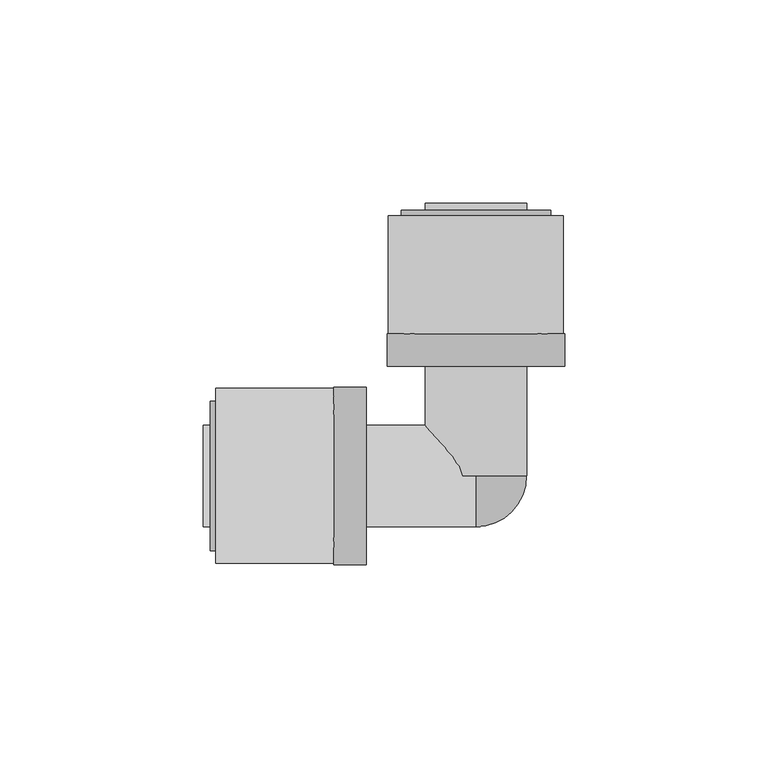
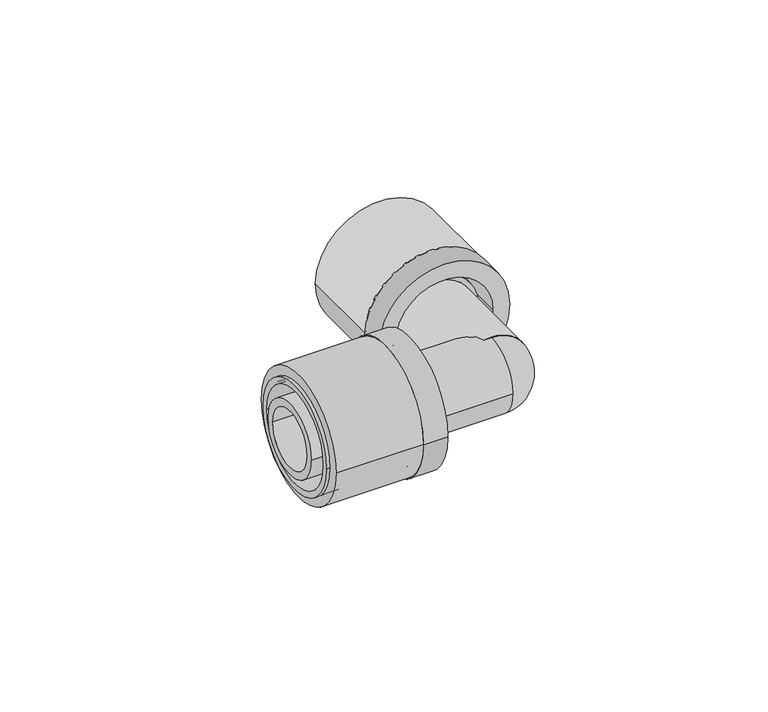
"""IFC4 building model written with IfcOpenShell, lengths in millimetres: pipe fitting geometry, FASTLOC_Corner LX : FSL C LX CZ."""

from ifc_helpers import new_model, si_unit, point, frame, origin, origin_2d, place, context, project, spatial, polyline, circle_curve, ellipse_curve, trimmed, segment, composite_curve, outline, extrude, source, transform, mapped, element, save
from ifc_brep_helpers import plane_surface, cylinder_surface, revolved_surface, advanced_brep


def pipe_fitting_edf19c19(model_context):
    return source(origin(), model_context, "Body", "SolidModel", [
        extrude(outline(composite_curve([segment(trimmed(circle_curve(origin_2d(), 21.5), [point((0.0, 21.5))], [point((0.0, -21.5))], False, "CARTESIAN"), True, "CONTINUOUS"), segment(trimmed(circle_curve(origin_2d(), 21.5), [point((0.0, -21.5))], [point((0.0, 21.5))], False, "CARTESIAN"), True, "CONTINUOUS")], self_intersect=False), holes=[composite_curve([segment(trimmed(circle_curve(origin_2d(), 16.85), [point((0.0, 16.85))], [point((0.0, -16.85))], True, "CARTESIAN"), True, "CONTINUOUS"), segment(trimmed(circle_curve(origin_2d(), 16.85), [point((0.0, -16.85))], [point((0.0, 16.85))], True, "CARTESIAN"), True, "CONTINUOUS")], self_intersect=False)]), frame((0.0, 35.0, 0.0), z_axis=(0.0, 1.0, 0.0), x_axis=(0.0, 0.0, 1.0)), (0.0, 0.0, 1.0), 29.0),
        advanced_brep(
        [(-21.8, 35.0, 0.0), (21.8, 35.0, 0.0), (21.8, 27.0, 0.0), (-21.8, 27.0, 0.0), (-18.35, 65.3, 0.0), (18.35, 65.3, 0.0), (18.35, 35.0, 0.0), (-18.35, 35.0, 0.0), (-16.2, 27.0, 0.0), (16.2, 27.0, 0.0), (16.2, 65.3, 0.0), (-16.2, 65.3, 0.0)],
        [
            (0, 1, circle_curve(frame((0.0, 35.0, 0.0), z_axis=(0.0, -1.0, 0.0), x_axis=(1.0, 0.0, 0.0)), 21.8)),
            (1, 2),
            (2, 3, circle_curve(frame((0.0, 27.0, 0.0), z_axis=(0.0, 1.0, 0.0), x_axis=(1.0, 0.0, 0.0)), 21.8)),
            (3, 0),
            (4, 5, circle_curve(frame((0.0, 65.3, 0.0), z_axis=(0.0, -1.0, 0.0), x_axis=(1.0, 0.0, 0.0)), 18.35)),
            (5, 6),
            (6, 7, circle_curve(frame((0.0, 35.0, 0.0), z_axis=(0.0, 1.0, 0.0), x_axis=(1.0, 0.0, 0.0)), 18.35)),
            (7, 4),
            (8, 9, circle_curve(frame((0.0, 27.0, 0.0), z_axis=(0.0, -1.0, 0.0), x_axis=(1.0, 0.0, 0.0)), 16.2)),
            (9, 10),
            (10, 11, circle_curve(frame((0.0, 65.3, 0.0), z_axis=(0.0, 1.0, 0.0), x_axis=(1.0, 0.0, 0.0)), 16.2)),
            (11, 8),
            (1, 0, circle_curve(frame((0.0, 35.0, 0.0), z_axis=(0.0, -1.0, 0.0), x_axis=(-1.0, 0.0, 0.0)), 21.8)),
            (3, 2, circle_curve(frame((0.0, 27.0, 0.0), z_axis=(0.0, 1.0, 0.0), x_axis=(-1.0, 0.0, 0.0)), 21.8)),
            (6, 7, circle_curve(frame((0.0, 35.0, 0.0), z_axis=(0.0, -1.0, 0.0), x_axis=(-1.0, 0.0, 0.0)), 18.35)),
            (5, 4, circle_curve(frame((0.0, 65.3, 0.0), z_axis=(0.0, -1.0, 0.0), x_axis=(-1.0, 0.0, 0.0)), 18.35)),
            (10, 11, circle_curve(frame((0.0, 65.3, 0.0), z_axis=(0.0, -1.0, 0.0), x_axis=(-1.0, 0.0, 0.0)), 16.2)),
            (9, 8, circle_curve(frame((0.0, 27.0, 0.0), z_axis=(0.0, -1.0, 0.0), x_axis=(-1.0, 0.0, 0.0)), 16.2)),
        ],
        [
            cylinder_surface(frame((0.0, 27.0, 0.0), z_axis=(0.0, 1.0, 0.0), x_axis=(1.0, 0.0, 0.0)), 21.8),
            cylinder_surface(frame((0.0, 27.0, 0.0), z_axis=(0.0, 1.0, 0.0), x_axis=(1.0, 0.0, 0.0)), 18.35),
            revolved_surface(polyline([(16.2, 65.3, 0.0), (16.2, 27.0, 0.0)]), (0.0, 27.0, 0.0), (0.0, 1.0, 0.0)),
            cylinder_surface(frame((0.0, 27.0, 0.0), z_axis=(0.0, 1.0, 0.0), x_axis=(-1.0, 0.0, 0.0)), 21.8),
            plane_surface(frame((0.0, 35.0, 0.0), z_axis=(0.0, 1.0, 0.0), x_axis=(-1.0, 0.0, 0.0))),
            cylinder_surface(frame((0.0, 27.0, 0.0), z_axis=(0.0, 1.0, 0.0), x_axis=(-1.0, 0.0, 0.0)), 18.35),
            plane_surface(frame((0.0, 65.3, 0.0), z_axis=(0.0, 1.0, 0.0), x_axis=(-1.0, 0.0, 0.0))),
            revolved_surface(polyline([(-16.2, 65.3, 0.0), (-16.2, 27.0, 0.0)]), (0.0, 27.0, 0.0), (0.0, 1.0, 0.0)),
            plane_surface(frame((0.0, 27.0, 0.0), z_axis=(0.0, -1.0, 0.0), x_axis=(-1.0, 0.0, 0.0))),
        ],
        [
            (0, [[1, 2, 3, 4]]),
            (1, [[5, 6, 7, 8]]),
            (2, [[9, 10, 11, 12]]),
            (3, [[13, -4, 14, -2]]),
            (4, [[-13, -1], [15, -7]]),
            (5, [[16, -8, -15, -6]]),
            (6, [[-16, -5], [17, -11]]),
            (7, [[18, -12, -17, -10]]),
            (8, [[-14, -3], [-18, -9]]),
        ],
    ),
        extrude(outline(composite_curve([segment(trimmed(circle_curve(origin_2d(), 21.5), [point((21.5, 0.0))], [point((-21.5, 0.0))], False, "CARTESIAN"), True, "CONTINUOUS"), segment(trimmed(circle_curve(origin_2d(), 21.5), [point((-21.5, 0.0))], [point((21.5, 0.0))], False, "CARTESIAN"), True, "CONTINUOUS")], self_intersect=False), holes=[composite_curve([segment(trimmed(circle_curve(origin_2d(), 16.85), [point((16.85, 0.0))], [point((-16.85, 0.0))], True, "CARTESIAN"), True, "CONTINUOUS"), segment(trimmed(circle_curve(origin_2d(), 16.85), [point((-16.85, 0.0))], [point((16.85, 0.0))], True, "CARTESIAN"), True, "CONTINUOUS")], self_intersect=False)]), frame((-64.0, 0.0, 0.0), z_axis=(1.0, 0.0, 0.0), x_axis=(0.0, 1.0, 0.0)), (0.0, 0.0, 1.0), 29.0),
        advanced_brep(
        [(-35.0, -21.8, 0.0), (-35.0, 21.8, 0.0), (-27.0, 21.8, 0.0), (-27.0, -21.8, 0.0), (-65.3, -18.35, 0.0), (-65.3, 18.35, 0.0), (-35.0, 18.35, 0.0), (-35.0, -18.35, 0.0), (-27.0, -16.2, 0.0), (-27.0, 16.2, 0.0), (-65.3, 16.2, 0.0), (-65.3, -16.2, 0.0)],
        [
            (0, 1, circle_curve(frame((-35.0, 0.0, 0.0), z_axis=(1.0, 0.0, 0.0), x_axis=(0.0, 1.0, 0.0)), 21.8)),
            (1, 2),
            (2, 3, circle_curve(frame((-27.0, 0.0, 0.0), z_axis=(-1.0, 0.0, 0.0), x_axis=(0.0, 1.0, 0.0)), 21.8)),
            (3, 0),
            (4, 5, circle_curve(frame((-65.3, 0.0, 0.0), z_axis=(1.0, 0.0, 0.0), x_axis=(0.0, 1.0, 0.0)), 18.35)),
            (5, 6),
            (6, 7, circle_curve(frame((-35.0, 0.0, 0.0), z_axis=(-1.0, 0.0, 0.0), x_axis=(0.0, 1.0, 0.0)), 18.35)),
            (7, 4),
            (8, 9, circle_curve(frame((-27.0, 0.0, 0.0), z_axis=(1.0, 0.0, 0.0), x_axis=(0.0, 1.0, 0.0)), 16.2)),
            (9, 10),
            (10, 11, circle_curve(frame((-65.3, 0.0, 0.0), z_axis=(-1.0, 0.0, 0.0), x_axis=(0.0, 1.0, 0.0)), 16.2)),
            (11, 8),
            (1, 0, circle_curve(frame((-35.0, 0.0, 0.0), z_axis=(1.0, 0.0, 0.0), x_axis=(0.0, -1.0, 0.0)), 21.8)),
            (3, 2, circle_curve(frame((-27.0, 0.0, 0.0), z_axis=(-1.0, 0.0, 0.0), x_axis=(0.0, -1.0, 0.0)), 21.8)),
            (6, 7, circle_curve(frame((-35.0, 0.0, 0.0), z_axis=(1.0, 0.0, 0.0), x_axis=(0.0, -1.0, 0.0)), 18.35)),
            (5, 4, circle_curve(frame((-65.3, 0.0, 0.0), z_axis=(1.0, 0.0, 0.0), x_axis=(0.0, -1.0, 0.0)), 18.35)),
            (10, 11, circle_curve(frame((-65.3, 0.0, 0.0), z_axis=(1.0, 0.0, 0.0), x_axis=(0.0, -1.0, 0.0)), 16.2)),
            (9, 8, circle_curve(frame((-27.0, 0.0, 0.0), z_axis=(1.0, 0.0, 0.0), x_axis=(0.0, -1.0, 0.0)), 16.2)),
        ],
        [
            cylinder_surface(frame((-27.0, 0.0, 0.0), z_axis=(-1.0, 0.0, 0.0), x_axis=(0.0, 1.0, 0.0)), 21.8),
            cylinder_surface(frame((-27.0, 0.0, 0.0), z_axis=(-1.0, 0.0, 0.0), x_axis=(0.0, 1.0, 0.0)), 18.35),
            revolved_surface(polyline([(-65.3, 16.2, 0.0), (-27.0, 16.2, 0.0)]), (-27.0, 0.0, 0.0), (-1.0, 0.0, 0.0)),
            cylinder_surface(frame((-27.0, 0.0, 0.0), z_axis=(-1.0, 0.0, 0.0), x_axis=(0.0, -1.0, 0.0)), 21.8),
            plane_surface(frame((-35.0, 0.0, 0.0), z_axis=(-1.0, 0.0, 0.0), x_axis=(0.0, -1.0, 0.0))),
            cylinder_surface(frame((-27.0, 0.0, 0.0), z_axis=(-1.0, 0.0, 0.0), x_axis=(0.0, -1.0, 0.0)), 18.35),
            plane_surface(frame((-65.3, 0.0, 0.0), z_axis=(-1.0, 0.0, 0.0), x_axis=(0.0, -1.0, 0.0))),
            revolved_surface(polyline([(-65.3, -16.2, 0.0), (-27.0, -16.2, 0.0)]), (-27.0, 0.0, 0.0), (-1.0, 0.0, 0.0)),
            plane_surface(frame((-27.0, 0.0, 0.0), z_axis=(1.0, 0.0, 0.0), x_axis=(0.0, -1.0, 0.0))),
        ],
        [
            (0, [[1, 2, 3, 4]]),
            (1, [[5, 6, 7, 8]]),
            (2, [[9, 10, 11, 12]]),
            (3, [[13, -4, 14, -2]]),
            (4, [[-13, -1], [15, -7]]),
            (5, [[16, -8, -15, -6]]),
            (6, [[-16, -5], [17, -11]]),
            (7, [[18, -12, -17, -10]]),
            (8, [[-14, -3], [-18, -9]]),
        ],
    ),
        advanced_brep(
        [(9.85, 67.0, 0.0), (-9.85, 67.0, 0.0), (-9.85, 0.0, 0.0), (9.85, 0.0, 0.0), (12.5, 35.0, 0.0), (-12.5, 35.0, 0.0), (-12.5, 67.0, 0.0), (12.5, 67.0, 0.0), (14.1, 32.0, 0.0), (-14.1, 32.0, 0.0), (-14.1, 35.0, 0.0), (14.1, 35.0, 0.0), (12.5, 0.0, 0.0), (-12.5, 0.0, 0.0), (-12.5, 32.0, 0.0), (12.5, 32.0, 0.0)],
        [
            (0, 1, circle_curve(frame((0.0, 67.0, 0.0), z_axis=(0.0, 1.0, 0.0), x_axis=(-1.0, 0.0, 0.0)), 9.85)),
            (1, 2),
            (2, 3, circle_curve(frame((0.0, 0.0, 0.0), z_axis=(0.0, -1.0, 0.0), x_axis=(-1.0, 0.0, 0.0)), 9.85)),
            (3, 0),
            (4, 5, circle_curve(frame((0.0, 35.0, 0.0), z_axis=(0.0, 1.0, 0.0), x_axis=(-1.0, 0.0, 0.0)), 12.5)),
            (5, 6),
            (6, 7, circle_curve(frame((0.0, 67.0, 0.0), z_axis=(0.0, -1.0, 0.0), x_axis=(-1.0, 0.0, 0.0)), 12.5)),
            (7, 4),
            (8, 9, circle_curve(frame((0.0, 32.0, 0.0), z_axis=(0.0, 1.0, 0.0), x_axis=(-1.0, 0.0, 0.0)), 14.1)),
            (9, 10),
            (10, 11, circle_curve(frame((0.0, 35.0, 0.0), z_axis=(0.0, -1.0, 0.0), x_axis=(-1.0, 0.0, 0.0)), 14.1)),
            (11, 8),
            (12, 13, circle_curve(frame((0.0, 0.0, 0.0), z_axis=(0.0, 1.0, 0.0), x_axis=(-1.0, 0.0, 0.0)), 12.5)),
            (13, 14),
            (14, 15, circle_curve(frame((0.0, 32.0, 0.0), z_axis=(0.0, -1.0, 0.0), x_axis=(-1.0, 0.0, 0.0)), 12.5)),
            (15, 12),
            (1, 0, circle_curve(frame((0.0, 67.0, 0.0), z_axis=(0.0, 1.0, 0.0), x_axis=(1.0, 0.0, 0.0)), 9.85)),
            (3, 2, circle_curve(frame((0.0, 0.0, 0.0), z_axis=(0.0, -1.0, 0.0), x_axis=(1.0, 0.0, 0.0)), 9.85)),
            (6, 7, circle_curve(frame((0.0, 67.0, 0.0), z_axis=(0.0, 1.0, 0.0), x_axis=(1.0, 0.0, 0.0)), 12.5)),
            (5, 4, circle_curve(frame((0.0, 35.0, 0.0), z_axis=(0.0, 1.0, 0.0), x_axis=(1.0, 0.0, 0.0)), 12.5)),
            (10, 11, circle_curve(frame((0.0, 35.0, 0.0), z_axis=(0.0, 1.0, 0.0), x_axis=(1.0, 0.0, 0.0)), 14.1)),
            (9, 8, circle_curve(frame((0.0, 32.0, 0.0), z_axis=(0.0, 1.0, 0.0), x_axis=(1.0, 0.0, 0.0)), 14.1)),
            (14, 15, circle_curve(frame((0.0, 32.0, 0.0), z_axis=(0.0, 1.0, 0.0), x_axis=(1.0, 0.0, 0.0)), 12.5)),
            (13, 12, circle_curve(frame((0.0, 0.0, 0.0), z_axis=(0.0, 1.0, 0.0), x_axis=(1.0, 0.0, 0.0)), 12.5)),
        ],
        [
            revolved_surface(polyline([(-9.85, 0.0, 0.0), (-9.85, 67.0, 0.0)]), (0.0, 0.0, 0.0), (0.0, -1.0, 0.0)),
            cylinder_surface(frame((0.0, 0.0, 0.0), z_axis=(0.0, -1.0, 0.0), x_axis=(-1.0, 0.0, 0.0)), 12.5),
            cylinder_surface(frame((0.0, 0.0, 0.0), z_axis=(0.0, -1.0, 0.0), x_axis=(-1.0, 0.0, 0.0)), 14.1),
            revolved_surface(polyline([(9.85, 0.0, 0.0), (9.85, 67.0, 0.0)]), (0.0, 0.0, 0.0), (0.0, -1.0, 0.0)),
            plane_surface(frame((0.0, 67.0, 0.0), z_axis=(0.0, 1.0, 0.0), x_axis=(1.0, 0.0, 0.0))),
            cylinder_surface(frame((0.0, 0.0, 0.0), z_axis=(0.0, -1.0, 0.0), x_axis=(1.0, 0.0, 0.0)), 12.5),
            plane_surface(frame((0.0, 35.0, 0.0), z_axis=(0.0, 1.0, 0.0), x_axis=(1.0, 0.0, 0.0))),
            cylinder_surface(frame((0.0, 0.0, 0.0), z_axis=(0.0, -1.0, 0.0), x_axis=(1.0, 0.0, 0.0)), 14.1),
            plane_surface(frame((0.0, 32.0, 0.0), z_axis=(0.0, -1.0, 0.0), x_axis=(1.0, 0.0, 0.0))),
            plane_surface(frame((0.0, 0.0, 0.0), z_axis=(0.0, -1.0, 0.0), x_axis=(1.0, 0.0, 0.0))),
        ],
        [
            (0, [[1, 2, 3, 4]]),
            (1, [[5, 6, 7, 8]]),
            (2, [[9, 10, 11, 12]]),
            (1, [[13, 14, 15, 16]]),
            (3, [[17, -4, 18, -2]]),
            (4, [[19, -7], [-17, -1]]),
            (5, [[20, -8, -19, -6]]),
            (6, [[21, -11], [-20, -5]]),
            (7, [[22, -12, -21, -10]]),
            (8, [[-22, -9], [23, -15]]),
            (5, [[24, -16, -23, -14]]),
            (9, [[-24, -13], [-18, -3]]),
        ],
    ),
        advanced_brep(
        [(-67.0, 9.85, 0.0), (-67.0, -9.85, 0.0), (0.0, -9.85, 0.0), (0.0, 9.85, 0.0), (-35.0, 12.5, 0.0), (-35.0, -12.5, 0.0), (-67.0, -12.5, 0.0), (-67.0, 12.5, 0.0), (-32.0, 14.1, 0.0), (-32.0, -14.1, 0.0), (-35.0, -14.1, 0.0), (-35.0, 14.1, 0.0), (0.0, 12.5, 0.0), (0.0, -12.5, 0.0), (-32.0, -12.5, 0.0), (-32.0, 12.5, 0.0)],
        [
            (0, 1, circle_curve(frame((-67.0, 0.0, 0.0), z_axis=(-1.0, 0.0, 0.0), x_axis=(0.0, -1.0, 0.0)), 9.85)),
            (1, 2),
            (2, 3, circle_curve(frame((0.0, 0.0, 0.0), z_axis=(1.0, 0.0, 0.0), x_axis=(0.0, -1.0, 0.0)), 9.85)),
            (3, 0),
            (4, 5, circle_curve(frame((-35.0, 0.0, 0.0), z_axis=(-1.0, 0.0, 0.0), x_axis=(0.0, -1.0, 0.0)), 12.5)),
            (5, 6),
            (6, 7, circle_curve(frame((-67.0, 0.0, 0.0), z_axis=(1.0, 0.0, 0.0), x_axis=(0.0, -1.0, 0.0)), 12.5)),
            (7, 4),
            (8, 9, circle_curve(frame((-32.0, 0.0, 0.0), z_axis=(-1.0, 0.0, 0.0), x_axis=(0.0, -1.0, 0.0)), 14.1)),
            (9, 10),
            (10, 11, circle_curve(frame((-35.0, 0.0, 0.0), z_axis=(1.0, 0.0, 0.0), x_axis=(0.0, -1.0, 0.0)), 14.1)),
            (11, 8),
            (12, 13, circle_curve(frame((0.0, 0.0, 0.0), z_axis=(-1.0, 0.0, 0.0), x_axis=(0.0, -1.0, 0.0)), 12.5)),
            (13, 14),
            (14, 15, circle_curve(frame((-32.0, 0.0, 0.0), z_axis=(1.0, 0.0, 0.0), x_axis=(0.0, -1.0, 0.0)), 12.5)),
            (15, 12),
            (1, 0, circle_curve(frame((-67.0, 0.0, 0.0), z_axis=(-1.0, 0.0, 0.0), x_axis=(0.0, 1.0, 0.0)), 9.85)),
            (3, 2, circle_curve(frame((0.0, 0.0, 0.0), z_axis=(1.0, 0.0, 0.0), x_axis=(0.0, 1.0, 0.0)), 9.85)),
            (6, 7, circle_curve(frame((-67.0, 0.0, 0.0), z_axis=(-1.0, 0.0, 0.0), x_axis=(0.0, 1.0, 0.0)), 12.5)),
            (5, 4, circle_curve(frame((-35.0, 0.0, 0.0), z_axis=(-1.0, 0.0, 0.0), x_axis=(0.0, 1.0, 0.0)), 12.5)),
            (10, 11, circle_curve(frame((-35.0, 0.0, 0.0), z_axis=(-1.0, 0.0, 0.0), x_axis=(0.0, 1.0, 0.0)), 14.1)),
            (9, 8, circle_curve(frame((-32.0, 0.0, 0.0), z_axis=(-1.0, 0.0, 0.0), x_axis=(0.0, 1.0, 0.0)), 14.1)),
            (14, 15, circle_curve(frame((-32.0, 0.0, 0.0), z_axis=(-1.0, 0.0, 0.0), x_axis=(0.0, 1.0, 0.0)), 12.5)),
            (13, 12, circle_curve(frame((0.0, 0.0, 0.0), z_axis=(-1.0, 0.0, 0.0), x_axis=(0.0, 1.0, 0.0)), 12.5)),
        ],
        [
            revolved_surface(polyline([(0.0, -9.85, 0.0), (-67.0, -9.85, 0.0)]), (0.0, 0.0, 0.0), (1.0, 0.0, 0.0)),
            cylinder_surface(frame((0.0, 0.0, 0.0), z_axis=(1.0, 0.0, 0.0), x_axis=(0.0, -1.0, 0.0)), 12.5),
            cylinder_surface(frame((0.0, 0.0, 0.0), z_axis=(1.0, 0.0, 0.0), x_axis=(0.0, -1.0, 0.0)), 14.1),
            revolved_surface(polyline([(0.0, 9.85, 0.0), (-67.0, 9.85, 0.0)]), (0.0, 0.0, 0.0), (1.0, 0.0, 0.0)),
            plane_surface(frame((-67.0, 0.0, 0.0), z_axis=(-1.0, 0.0, 0.0), x_axis=(0.0, 1.0, 0.0))),
            cylinder_surface(frame((0.0, 0.0, 0.0), z_axis=(1.0, 0.0, 0.0), x_axis=(0.0, 1.0, 0.0)), 12.5),
            plane_surface(frame((-35.0, 0.0, 0.0), z_axis=(-1.0, 0.0, 0.0), x_axis=(0.0, 1.0, 0.0))),
            cylinder_surface(frame((0.0, 0.0, 0.0), z_axis=(1.0, 0.0, 0.0), x_axis=(0.0, 1.0, 0.0)), 14.1),
            plane_surface(frame((-32.0, 0.0, 0.0), z_axis=(1.0, 0.0, 0.0), x_axis=(0.0, 1.0, 0.0))),
            plane_surface(frame((0.0, 0.0, 0.0), z_axis=(1.0, 0.0, 0.0), x_axis=(0.0, 1.0, 0.0))),
        ],
        [
            (0, [[1, 2, 3, 4]]),
            (1, [[5, 6, 7, 8]]),
            (2, [[9, 10, 11, 12]]),
            (1, [[13, 14, 15, 16]]),
            (3, [[17, -4, 18, -2]]),
            (4, [[19, -7], [-17, -1]]),
            (5, [[20, -8, -19, -6]]),
            (6, [[21, -11], [-20, -5]]),
            (7, [[22, -12, -21, -10]]),
            (8, [[-22, -9], [23, -15]]),
            (5, [[24, -16, -23, -14]]),
            (9, [[-24, -13], [-18, -3]]),
        ],
    ),
        advanced_brep(
        [(0.0, 0.0, 12.5), (0.0, 0.0, 0.0), (0.0, -12.5, 0.0), (0.0, 0.0, -12.5)],
        [
            (0, 1),
            (1, 2),
            (2, 0, circle_curve(frame((0.0, 0.0, 0.0), z_axis=(-1.0, 0.0, 0.0), x_axis=(0.0, 0.0, 1.0)), 12.5)),
            (3, 2, circle_curve(frame((0.0, 0.0, 0.0), z_axis=(-1.0, 0.0, 0.0), x_axis=(0.0, 0.0, -1.0)), 12.5)),
            (1, 3),
            (0, 3, circle_curve(frame((0.0, 0.0, 0.0), z_axis=(0.0, 1.0, 0.0), x_axis=(0.0, 0.0, 1.0)), 12.5)),
        ],
        [
            plane_surface(frame((0.0, 0.0, 0.0), z_axis=(-1.0, 0.0, 0.0), x_axis=(0.0, 0.0, 1.0))),
            plane_surface(frame((0.0, 0.0, 0.0), z_axis=(-1.0, 0.0, 0.0), x_axis=(0.0, 0.0, -1.0))),
            plane_surface(frame((0.0, 0.0, 0.0), z_axis=(0.0, 1.0, 0.0), x_axis=(0.0, 0.0, 1.0))),
            revolved_surface(trimmed(ellipse_curve(frame((0.0, 0.0, 0.0), z_axis=(-1.0, 0.0, 0.0), x_axis=(0.0, 0.0, 1.0)), 12.5, 12.5), [point((0.0, -12.5, 0.0))], [point((0.0, 0.0, 12.5))], True, "CARTESIAN"), (0.0, 0.0, 0.0), (0.0, 1.0, 0.0)),
        ],
        [
            (0, [[1, 2, 3]]),
            (1, [[4, -2, 5]]),
            (2, [[-1, 6, -5]]),
            (3, [[-6, -3, -4]]),
        ],
    ),
    ])


if __name__ == "__main__":
    model = new_model("IFC4")
    model_context = context("Model", 3, world=origin())
    ifc_project = project(units=[si_unit("LENGTHUNIT", "METRE", prefix="MILLI")], contexts=[model_context])
    site = spatial("IfcSite", under=ifc_project)
    building = spatial("IfcBuilding", under=site)
    placement = place(None, origin())
    pipe_fitting_shape = pipe_fitting_edf19c19(model_context)
    element("IfcPipeFitting", 1, ObjectType="FASTLOC_Corner LX : FSL C LX CZ", at=placement, inside=building, context=model_context, shape_type="MappedRepresentation", body=[
        mapped(pipe_fitting_shape, transform((0.0, 0.0, 0.0), x_axis=(1.0, 0.0, 0.0), y_axis=(0.0, 1.0, 0.0), z_axis=(0.0, 0.0, 1.0))),
    ])
    save(model, "model.ifc")
